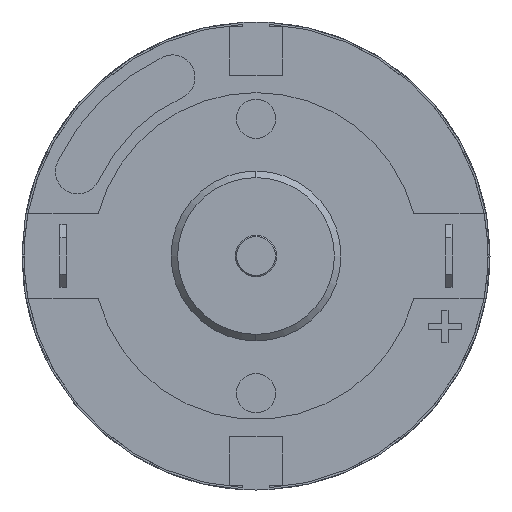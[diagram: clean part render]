
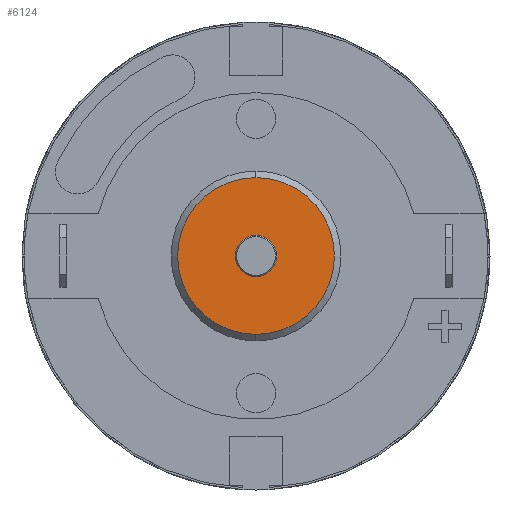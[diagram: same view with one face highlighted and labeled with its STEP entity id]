
A CAD part, left-side view. The second image highlights one B-rep face of the part: STEP entity #6124.
In plain terms, the highlighted planar face has unit normal (-1, 0, 0).
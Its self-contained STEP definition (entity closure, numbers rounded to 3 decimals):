
#115 = AXIS2_PLACEMENT_3D ( 'NONE', #6359, #6276, #6260 ) ;
#229 = CIRCLE ( 'NONE', #115, 1.588 ) ;
#467 = VERTEX_POINT ( 'NONE', #6036 ) ;
#628 = CIRCLE ( 'NONE', #702, 6. ) ;
#702 = AXIS2_PLACEMENT_3D ( 'NONE', #2565, #2555, #2534 ) ;
#900 = CIRCLE ( 'NONE', #6273, 6. ) ;
#955 = EDGE_CURVE ( 'NONE', #2014, #6045, #628, .T. ) ;
#1252 = AXIS2_PLACEMENT_3D ( 'NONE', #4111, #4119, #4134 ) ;
#1768 = CARTESIAN_POINT ( 'NONE',  ( 1., 0., -1.588 ) ) ;
#1818 = EDGE_CURVE ( 'NONE', #3103, #467, #3909, .T. ) ;
#1831 = EDGE_CURVE ( 'NONE', #6045, #2014, #900, .T. ) ;
#2014 = VERTEX_POINT ( 'NONE', #2499 ) ;
#2499 = CARTESIAN_POINT ( 'NONE',  ( 1., 0., 6. ) ) ;
#2534 = DIRECTION ( 'NONE',  ( 0., 0., -1. ) ) ;
#2555 = DIRECTION ( 'NONE',  ( -1., 0., 0. ) ) ;
#2565 = CARTESIAN_POINT ( 'NONE',  ( 1., 0., 0. ) ) ;
#3103 = VERTEX_POINT ( 'NONE', #1768 ) ;
#3445 = CARTESIAN_POINT ( 'NONE',  ( 1., 0., -6. ) ) ;
#3895 = EDGE_LOOP ( 'NONE', ( #4790, #4852 ) ) ;
#3909 = CIRCLE ( 'NONE', #1252, 1.588 ) ;
#3933 = DIRECTION ( 'NONE',  ( 0., 0., -1. ) ) ;
#3981 = DIRECTION ( 'NONE',  ( -1., 0., 0. ) ) ;
#3991 = CARTESIAN_POINT ( 'NONE',  ( 1., 0., 0. ) ) ;
#4091 = EDGE_CURVE ( 'NONE', #467, #3103, #229, .T. ) ;
#4111 = CARTESIAN_POINT ( 'NONE',  ( 1., 0., 0. ) ) ;
#4119 = DIRECTION ( 'NONE',  ( -1., 0., 0. ) ) ;
#4134 = DIRECTION ( 'NONE',  ( 0., 0., 1. ) ) ;
#4165 = EDGE_LOOP ( 'NONE', ( #4711, #4774 ) ) ;
#4711 = ORIENTED_EDGE ( 'NONE', *, *, #1831, .T. ) ;
#4774 = ORIENTED_EDGE ( 'NONE', *, *, #955, .T. ) ;
#4790 = ORIENTED_EDGE ( 'NONE', *, *, #4091, .F. ) ;
#4852 = ORIENTED_EDGE ( 'NONE', *, *, #1818, .F. ) ;
#5489 = DIRECTION ( 'NONE',  ( 0., 0., -1. ) ) ;
#5510 = DIRECTION ( 'NONE',  ( 1., 0., 0. ) ) ;
#5694 = CARTESIAN_POINT ( 'NONE',  ( 1., 6.5, 0. ) ) ;
#5741 = FACE_BOUND ( 'NONE', #3895, .T. ) ;
#5821 = AXIS2_PLACEMENT_3D ( 'NONE', #5694, #5510, #5489 ) ;
#5855 = FACE_OUTER_BOUND ( 'NONE', #4165, .T. ) ;
#5890 = PLANE ( 'NONE',  #5821 ) ;
#6036 = CARTESIAN_POINT ( 'NONE',  ( 1., 0., 1.588 ) ) ;
#6045 = VERTEX_POINT ( 'NONE', #3445 ) ;
#6124 = ADVANCED_FACE ( 'NONE', ( #5855, #5741 ), #5890, .F. ) ;
#6260 = DIRECTION ( 'NONE',  ( 0., 0., 1. ) ) ;
#6273 = AXIS2_PLACEMENT_3D ( 'NONE', #3991, #3981, #3933 ) ;
#6276 = DIRECTION ( 'NONE',  ( -1., 0., 0. ) ) ;
#6359 = CARTESIAN_POINT ( 'NONE',  ( 1., 0., 0. ) ) ;
